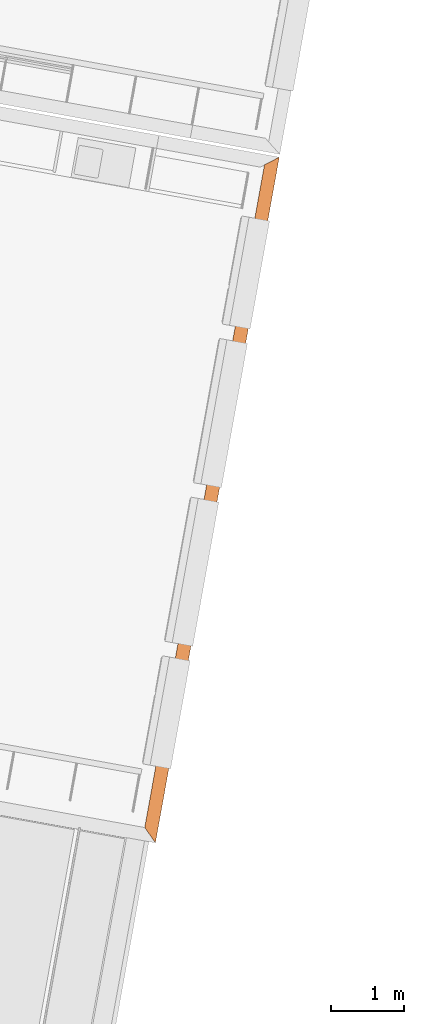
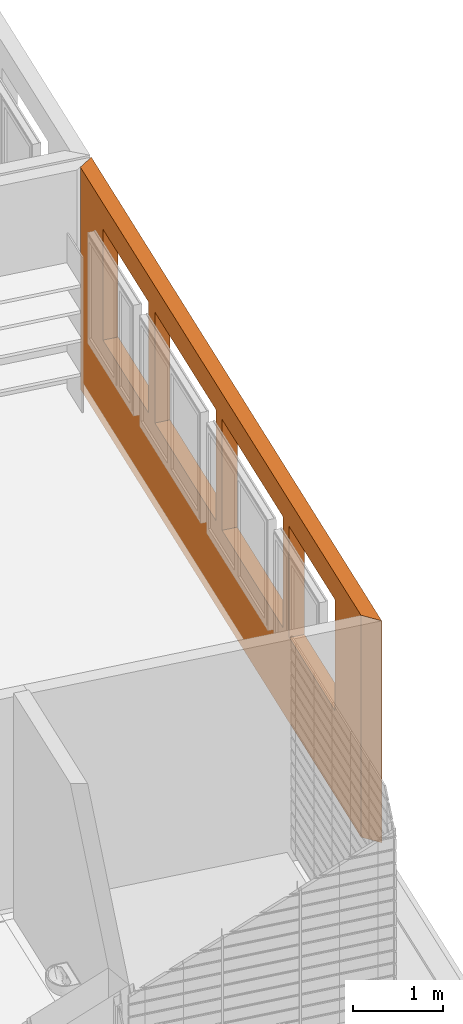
# One storey, part 43 of 52: 1 proxy.
"""IFC2X3 building model written with IfcOpenShell, lengths in metres."""

from ifc_helpers import new_model, entity, si_unit, converted_unit, derived_unit, money_unit, direction, frame, origin_with_axes, place, context, subcontext, project, spatial, polyline, outline, extrude, boolean, faceted_brep, material, type_object, element, save


model = new_model("IFC2X3")

# Units and contexts
model_context = context("Model", 3, precision=1e-05, world=origin_with_axes(), true_north=direction((0.0, 1.0)))
body_context = subcontext(model_context, "Body", "Model", "MODEL_VIEW")
ifc_project = project(units=[si_unit("LENGTHUNIT", "METRE"), si_unit("AREAUNIT", "SQUARE_METRE"), si_unit("VOLUMEUNIT", "CUBIC_METRE"), converted_unit("PLANEANGLEUNIT", "DEGREE", entity("IfcPlaneAngleMeasure", 0.0174532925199), si_unit("PLANEANGLEUNIT", "RADIAN"), dimensions=[0, 0, 0, 0, 0, 0, 0]), money_unit("CHF"), converted_unit("TIMEUNIT", "Year", entity("IfcTimeMeasure", 31556926.0), si_unit("TIMEUNIT", "SECOND"), dimensions=[0, 0, 1, 0, 0, 0, 0]), si_unit("MASSUNIT", "GRAM", prefix="KILO"), si_unit("THERMODYNAMICTEMPERATUREUNIT", "DEGREE_CELSIUS"), si_unit("LUMINOUSINTENSITYUNIT", "LUMEN"), si_unit("ENERGYUNIT", "JOULE", prefix="MEGA"), derived_unit("THERMALCONDUCTANCEUNIT", [(si_unit("POWERUNIT", "WATT"), 1), (si_unit("LENGTHUNIT", "METRE"), -1), (si_unit("THERMODYNAMICTEMPERATUREUNIT", "KELVIN"), -1)]), derived_unit("SPECIFICHEATCAPACITYUNIT", [(si_unit("ENERGYUNIT", "JOULE"), 1), (si_unit("MASSUNIT", "GRAM", prefix="KILO"), -1), (si_unit("THERMODYNAMICTEMPERATUREUNIT", "KELVIN"), -1)]), derived_unit("MASSDENSITYUNIT", [(si_unit("MASSUNIT", "GRAM", prefix="KILO"), 1), (si_unit("VOLUMEUNIT", "CUBIC_METRE"), -1)])], contexts=[model_context])

# Site, building, storey
site_placement = place(None, frame((0.0, 0.0, 0.0), z_axis=(0.0, 0.0, 1.0), x_axis=(-0.177771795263, -0.984071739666, 0.0)))
site = spatial("IfcSite", under=ifc_project, at=site_placement, Name="Site", CompositionType="ELEMENT")
building_placement = place(site_placement, origin_with_axes())
building = spatial("IfcBuilding", under=site, at=building_placement, Name="Bâtiment", CompositionType="ELEMENT")
storey_placement = place(building_placement, frame((0.0, 0.0, 3.2), z_axis=(0.0, 0.0, 1.0), x_axis=(1.0, 0.0, 0.0)))
storey = spatial("IfcBuildingStorey", under=building, at=storey_placement, Name="R+1", CompositionType="ELEMENT", Elevation=3.2)

# Proxy
ifc_material = material(Name="_BA banché RAL9007")
building_element_proxy_type = type_object("IfcBuildingElementProxyType", Name="_M ext 18 +18 gris 360", PredefinedType="NOTDEFINED")
proxy_placement = place(storey_placement, frame((138.014841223, -148.117151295, -0.15), z_axis=(0.0, 0.0, 1.0), x_axis=(-1.0, 0.0, 0.0)))
element("IfcBuildingElementProxy", 1, at=proxy_placement, inside=storey, type_object=building_element_proxy_type, material=ifc_material, Name="M ext-Est", context=body_context, shape_type="CSG", body=[
    boolean("DIFFERENCE", boolean("DIFFERENCE", boolean("DIFFERENCE", boolean("DIFFERENCE", extrude(outline(polyline([(0.0, 0.0), (9.51, 0.0), (9.36999999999, 0.18), (0.179999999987, 0.18), (0.0, 0.0)])), origin_with_axes(), (0.0, 0.0, 1.0), 3.0), faceted_brep([(8.62999999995, 0.18, 1.15), (7.12999999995, 0.18, 1.15), (7.12999999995, 0.18, 2.65), (8.62999999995, 0.18, 2.65), (8.62999999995, 0.0, 1.15), (7.12999999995, 0.0, 1.15), (7.12999999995, 0.0, 2.65), (8.62999999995, 0.0, 2.65)], [[[0, 1, 2, 3]], [[4, 5, 1, 0]], [[5, 6, 2, 1]], [[6, 7, 3, 2]], [[7, 4, 0, 3]], [[4, 7, 6, 5]]])), faceted_brep([(6.92999999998, 0.18, 1.15), (4.92999999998, 0.18, 1.15), (4.92999999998, 0.18, 2.65), (6.92999999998, 0.18, 2.65), (6.92999999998, 0.0, 1.15), (4.92999999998, 0.0, 1.15), (4.92999999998, 0.0, 2.65), (6.92999999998, 0.0, 2.65)], [[[0, 1, 2, 3]], [[4, 5, 1, 0]], [[5, 6, 2, 1]], [[6, 7, 3, 2]], [[7, 4, 0, 3]], [[4, 7, 6, 5]]])), faceted_brep([(4.72999999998, 0.18, 1.15), (2.72999999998, 0.18, 1.15), (2.72999999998, 0.18, 2.65), (4.72999999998, 0.18, 2.65), (4.72999999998, 0.0, 1.15), (2.72999999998, 0.0, 1.15), (2.72999999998, 0.0, 2.65), (4.72999999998, 0.0, 2.65)], [[[0, 1, 2, 3]], [[4, 5, 1, 0]], [[5, 6, 2, 1]], [[6, 7, 3, 2]], [[7, 4, 0, 3]], [[4, 7, 6, 5]]])), faceted_brep([(2.52999999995, 0.18, 1.15), (1.02999999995, 0.18, 1.15), (1.02999999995, 0.18, 2.65), (2.52999999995, 0.18, 2.65), (2.52999999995, 0.0, 1.15), (1.02999999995, 0.0, 1.15), (1.02999999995, 0.0, 2.65), (2.52999999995, 0.0, 2.65)], [[[0, 1, 2, 3]], [[4, 5, 1, 0]], [[5, 6, 2, 1]], [[6, 7, 3, 2]], [[7, 4, 0, 3]], [[4, 7, 6, 5]]])),
])

save(model, "model.ifc")
